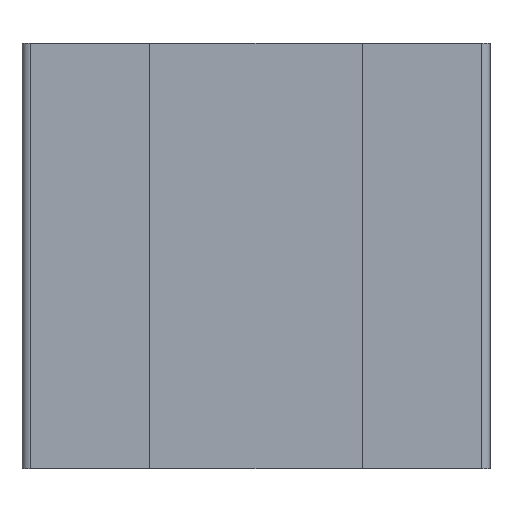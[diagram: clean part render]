
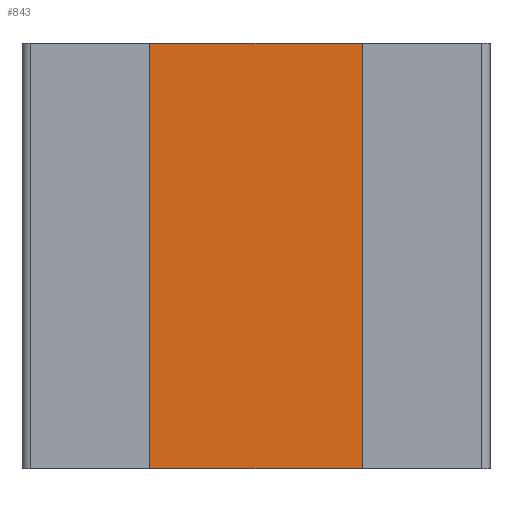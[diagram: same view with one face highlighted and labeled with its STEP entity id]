
A CAD part, front view. The second image highlights one B-rep face of the part: STEP entity #843.
In plain terms, the highlighted planar face has unit normal (0, -1, 0).
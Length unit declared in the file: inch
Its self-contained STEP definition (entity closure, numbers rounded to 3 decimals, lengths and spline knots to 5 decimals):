
#33=FACE_OUTER_BOUND('',#83,.T.);
#83=EDGE_LOOP('',(#566,#567,#568,#569));
#133=LINE('',#1198,#245);
#138=LINE('',#1208,#250);
#139=LINE('',#1211,#251);
#140=LINE('',#1212,#252);
#245=VECTOR('',#966,0.053);
#250=VECTOR('',#975,0.05);
#251=VECTOR('',#978,0.053);
#252=VECTOR('',#979,0.05);
#354=VERTEX_POINT('',#1191);
#357=VERTEX_POINT('',#1196);
#360=VERTEX_POINT('',#1206);
#361=VERTEX_POINT('',#1210);
#437=EDGE_CURVE('',#357,#354,#133,.T.);
#442=EDGE_CURVE('',#357,#360,#138,.T.);
#443=EDGE_CURVE('',#361,#360,#139,.T.);
#444=EDGE_CURVE('',#354,#361,#140,.T.);
#566=ORIENTED_EDGE('',*,*,#442,.T.);
#567=ORIENTED_EDGE('',*,*,#443,.F.);
#568=ORIENTED_EDGE('',*,*,#444,.F.);
#569=ORIENTED_EDGE('',*,*,#437,.F.);
#797=PLANE('',#904);
#843=ADVANCED_FACE('',(#33),#797,.T.);
#904=AXIS2_PLACEMENT_3D('',#1209,#976,#977);
#966=DIRECTION('',(-1.,0.,0.));
#975=DIRECTION('',(0.,0.,1.));
#976=DIRECTION('center_axis',(0.,-1.,0.));
#977=DIRECTION('ref_axis',(1.,0.,0.));
#978=DIRECTION('',(1.,0.,0.));
#979=DIRECTION('',(0.,0.,1.));
#1191=CARTESIAN_POINT('',(-0.0265,0.001,-0.025));
#1196=CARTESIAN_POINT('',(0.0265,0.001,-0.025));
#1198=CARTESIAN_POINT('',(-0.0265,0.001,-0.025));
#1206=CARTESIAN_POINT('',(0.0265,0.001,0.025));
#1208=CARTESIAN_POINT('',(0.0265,0.001,0.));
#1209=CARTESIAN_POINT('Origin',(-0.0265,0.001,0.));
#1210=CARTESIAN_POINT('',(-0.0265,0.001,0.025));
#1211=CARTESIAN_POINT('',(-0.0265,0.001,0.025));
#1212=CARTESIAN_POINT('',(-0.0265,0.001,0.));
